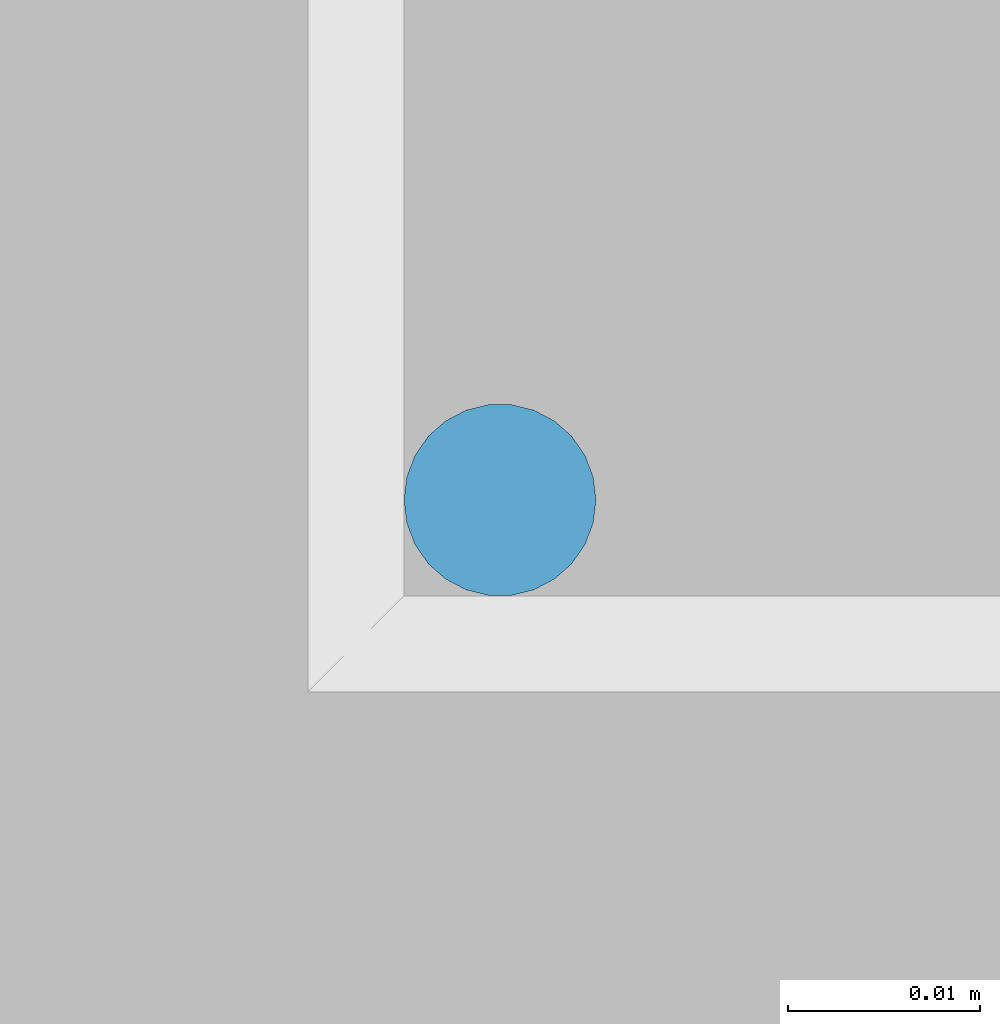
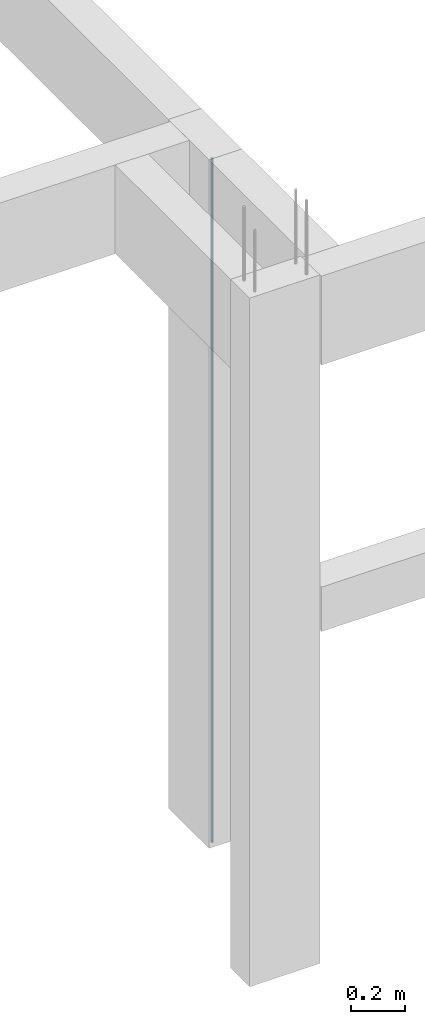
# One storey, part 11 of 236: 1 reinforcing bar.
"""IFC4 building model written with IfcOpenShell, lengths in centimetres."""

from ifc_helpers import new_model, entity, si_unit, derived_unit, frame, origin_with_axes, place, context, project, spatial, element, save


model = new_model("IFC4")

# Units and contexts
model_context = context("Model", 3, precision=1e-05, world=origin_with_axes(), identifier="Body")
ifc_project = project(units=[si_unit("LENGTHUNIT", "METRE", prefix="CENTI"), si_unit("VOLUMEUNIT", "CUBIC_METRE"), si_unit("AREAUNIT", "SQUARE_METRE"), si_unit("POWERUNIT", "WATT"), si_unit("LUMINOUSFLUXUNIT", "LUMEN"), si_unit("ELECTRICCURRENTUNIT", "AMPERE"), si_unit("PRESSUREUNIT", "PASCAL", prefix="KILO"), si_unit("MASSUNIT", "GRAM", prefix="KILO"), si_unit("PLANEANGLEUNIT", "RADIAN"), derived_unit("VOLUMETRICFLOWRATEUNIT", [(si_unit("LENGTHUNIT", "METRE"), 3), (si_unit("TIMEUNIT", "SECOND"), -1)])], contexts=[model_context])

# Site, building, storey
site_placement = place(None, frame((-4000.0, 0.0, 0.0), z_axis=(0.0, 0.0, 1.0), x_axis=(1.0, 0.0, 0.0)))
site = spatial("IfcSite", under=ifc_project, at=site_placement, Name="PADRÃO")
building_placement = place(site_placement, frame((0.0, 0.0, -14.0)))
building = spatial("IfcBuilding", under=site, at=building_placement, Name="CRECHE PRÉ-ESCOLA TIPO 2")
placement_1 = place(building_placement, origin_with_axes())
placement_2 = place(placement_1, frame((0.0, 0.0, 30.0), z_axis=(0.0, 0.0, 1.0), x_axis=(1.0, 0.0, 0.0)))
storey_placement = place(placement_2, frame((0.0, 0.0, 310.0), z_axis=(0.0, 0.0, 1.0), x_axis=(1.0, 0.0, 0.0)))
storey = spatial("IfcBuildingStorey", under=building, at=storey_placement, Name="TERREO", CompositionType="ELEMENT", Elevation=326.0)

# Reinforcing bar
reinforcing_bar_placement = place(storey_placement, frame((499.57, 496.51, -2.0), z_axis=(0.0, 0.0, 1.0), x_axis=(1.0, 0.0, 0.0)))
element("IfcReinforcingBar", 1, at=reinforcing_bar_placement, inside=storey, Name="P136 - Longitudinal", BarLength=0.0, CrossSectionArea=7.853981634e-05, NominalDiameter=1.0, PredefinedType="MAIN", context=model_context, shape_type="AdvancedSweptSolid", body=[
    entity("IfcSweptDiskSolid", entity("IfcCompositeCurve", [entity("IfcCompositeCurveSegment", "CONTINUOUS", True, entity("IfcPolyline", [entity("IfcCartesianPoint", [0.0, 0.0, -308.0]), entity("IfcCartesianPoint", [0.0, 0.0, 0.0])]))], False), 0.5),
])

save(model, "model.ifc")
